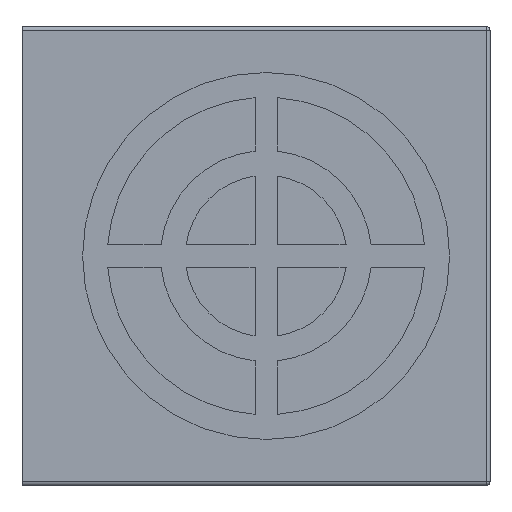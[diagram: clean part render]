
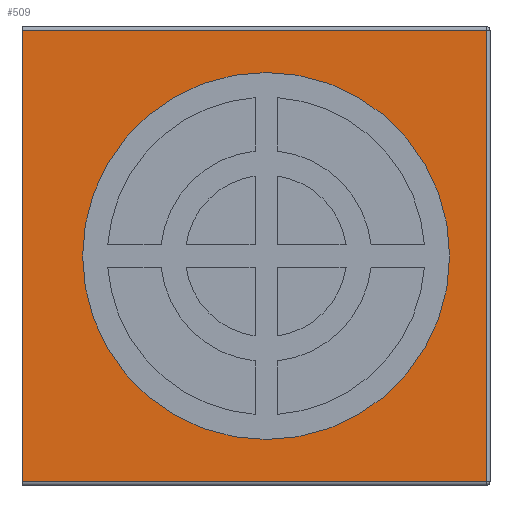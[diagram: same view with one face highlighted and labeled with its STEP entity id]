
A CAD part, left-side view. The second image highlights one B-rep face of the part: STEP entity #509.
In plain terms, the highlighted planar face has unit normal (-1, 0, 0).
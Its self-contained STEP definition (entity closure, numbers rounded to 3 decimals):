
#122 = VECTOR ( 'NONE', #281, 1000. ) ;
#176 = VERTEX_POINT ( 'NONE', #3989 ) ;
#281 = DIRECTION ( 'NONE',  ( 0., -1., 0. ) ) ;
#331 = EDGE_CURVE ( 'NONE', #672, #2464, #1889, .T. ) ;
#450 = CARTESIAN_POINT ( 'NONE',  ( 0., 12.2, 22.5 ) ) ;
#509 = ADVANCED_FACE ( 'NONE', ( #1237, #2295 ), #3294, .F. ) ;
#537 = AXIS2_PLACEMENT_3D ( 'NONE', #3336, #1710, #3013 ) ;
#659 = VERTEX_POINT ( 'NONE', #450 ) ;
#672 = VERTEX_POINT ( 'NONE', #4042 ) ;
#789 = DIRECTION ( 'NONE',  ( 0., 0., 1. ) ) ;
#797 = EDGE_LOOP ( 'NONE', ( #1087, #1968 ) ) ;
#847 = AXIS2_PLACEMENT_3D ( 'NONE', #3071, #2167, #789 ) ;
#905 = CARTESIAN_POINT ( 'NONE',  ( 0., 25.5, 0.2 ) ) ;
#1087 = ORIENTED_EDGE ( 'NONE', *, *, #3216, .F. ) ;
#1193 = CARTESIAN_POINT ( 'NONE',  ( 0., 25.5, 0. ) ) ;
#1216 = DIRECTION ( 'NONE',  ( 0., 0., 1. ) ) ;
#1224 = EDGE_CURVE ( 'NONE', #2934, #176, #3179, .T. ) ;
#1237 = FACE_BOUND ( 'NONE', #797, .T. ) ;
#1436 = VECTOR ( 'NONE', #3896, 1000. ) ;
#1551 = VECTOR ( 'NONE', #2244, 1000. ) ;
#1560 = LINE ( 'NONE', #905, #122 ) ;
#1572 = AXIS2_PLACEMENT_3D ( 'NONE', #4204, #1992, #4222 ) ;
#1710 = DIRECTION ( 'NONE',  ( -1., 0., 0. ) ) ;
#1889 = LINE ( 'NONE', #1193, #3385 ) ;
#1967 = LINE ( 'NONE', #2624, #1436 ) ;
#1968 = ORIENTED_EDGE ( 'NONE', *, *, #4114, .F. ) ;
#1992 = DIRECTION ( 'NONE',  ( 1., 0., 0. ) ) ;
#2135 = CARTESIAN_POINT ( 'NONE',  ( 0., 12.2, 2.5 ) ) ;
#2167 = DIRECTION ( 'NONE',  ( -1., 0., 0. ) ) ;
#2207 = EDGE_LOOP ( 'NONE', ( #2351, #3529, #2519, #3211 ) ) ;
#2244 = DIRECTION ( 'NONE',  ( 0., 0., 1. ) ) ;
#2295 = FACE_OUTER_BOUND ( 'NONE', #2207, .T. ) ;
#2351 = ORIENTED_EDGE ( 'NONE', *, *, #1224, .T. ) ;
#2464 = VERTEX_POINT ( 'NONE', #4193 ) ;
#2519 = ORIENTED_EDGE ( 'NONE', *, *, #331, .F. ) ;
#2624 = CARTESIAN_POINT ( 'NONE',  ( 0., 25.5, 24.8 ) ) ;
#2699 = CIRCLE ( 'NONE', #847, 10. ) ;
#2737 = VERTEX_POINT ( 'NONE', #2135 ) ;
#2934 = VERTEX_POINT ( 'NONE', #3264 ) ;
#3013 = DIRECTION ( 'NONE',  ( 0., 0., 1. ) ) ;
#3071 = CARTESIAN_POINT ( 'NONE',  ( 0., 12.2, 12.5 ) ) ;
#3179 = LINE ( 'NONE', #3851, #1551 ) ;
#3211 = ORIENTED_EDGE ( 'NONE', *, *, #3930, .T. ) ;
#3216 = EDGE_CURVE ( 'NONE', #659, #2737, #2699, .T. ) ;
#3264 = CARTESIAN_POINT ( 'NONE',  ( 0., 0.2, 0.2 ) ) ;
#3294 = PLANE ( 'NONE',  #1572 ) ;
#3336 = CARTESIAN_POINT ( 'NONE',  ( 0., 12.2, 12.5 ) ) ;
#3385 = VECTOR ( 'NONE', #1216, 1000. ) ;
#3529 = ORIENTED_EDGE ( 'NONE', *, *, #3995, .T. ) ;
#3851 = CARTESIAN_POINT ( 'NONE',  ( 0., 0.2, 0. ) ) ;
#3891 = CIRCLE ( 'NONE', #537, 10. ) ;
#3896 = DIRECTION ( 'NONE',  ( 0., 1., 0. ) ) ;
#3930 = EDGE_CURVE ( 'NONE', #672, #2934, #1560, .T. ) ;
#3989 = CARTESIAN_POINT ( 'NONE',  ( 0., 0.2, 24.8 ) ) ;
#3995 = EDGE_CURVE ( 'NONE', #176, #2464, #1967, .T. ) ;
#4042 = CARTESIAN_POINT ( 'NONE',  ( 0., 25.5, 0.2 ) ) ;
#4114 = EDGE_CURVE ( 'NONE', #2737, #659, #3891, .T. ) ;
#4193 = CARTESIAN_POINT ( 'NONE',  ( 0., 25.5, 24.8 ) ) ;
#4204 = CARTESIAN_POINT ( 'NONE',  ( 0., 25.5, 0. ) ) ;
#4222 = DIRECTION ( 'NONE',  ( 0., 0., -1. ) ) ;
